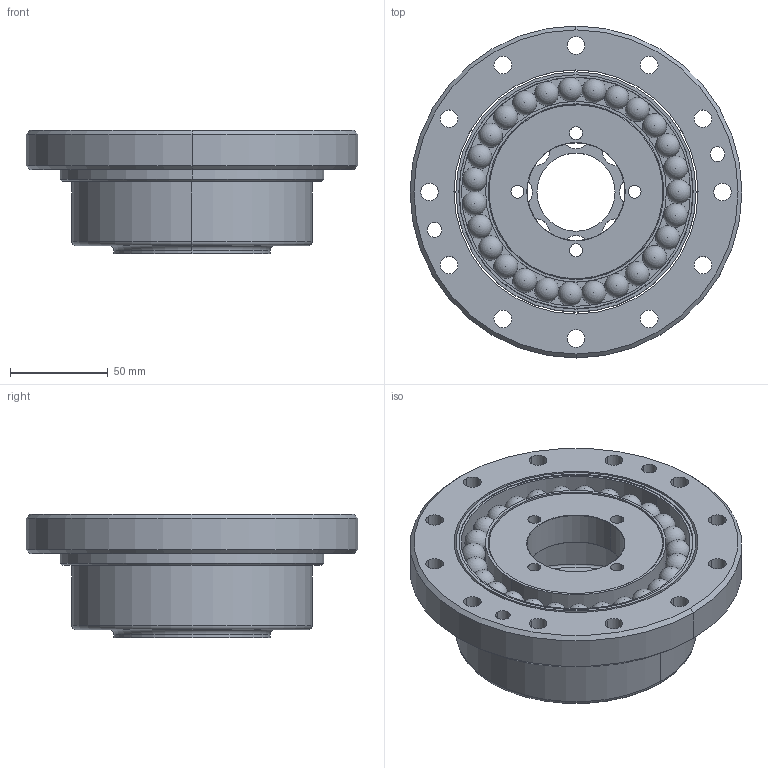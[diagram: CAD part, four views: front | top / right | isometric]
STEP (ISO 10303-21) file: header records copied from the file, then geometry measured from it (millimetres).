
FILE_DESCRIPTION (( 'STEP AP203' ), '1' );
FILE_NAME ('PGK-32-160.STEP', '2023-01-23T10:26:12', ( '' ), ( '' ), 'SwSTEP 2.0', 'SolidWorks 2020', '' );
FILE_SCHEMA (( 'CONFIG_CONTROL_DESIGN' ));
Length unit declared in the file: millimetre
Products named in the file (5): PGK-32-160; PGK24-100-80-04___ _________; PGK24-100-80-03___ _________; PGK24-100-80-02___ _________; PGK24-100-80-01___ _________
Assembly tree (4 placements, depth 2):
  PGK-32-160
    PGK24-100-80-03___ _________
    PGK24-100-80-04___ _________
    PGK24-100-80-01___ _________
    PGK24-100-80-02___ _________
Bounding box: 170 x 170 x 63 mm (x, y, z)
Volume: 371418.8 mm3; surface area: 170076.9 mm2
Topology: 6 solids, 6 shells, 173 faces, 539 edges, 325 vertices
Faces by surface type: cylinder 80, sphere 54, plane 13, cone 10, torus 10, bspline 6
Entity records: 9921 total; most frequent: CARTESIAN_POINT 5120, DIRECTION 1036, ORIENTED_EDGE 808, AXIS2_PLACEMENT_3D 472, EDGE_CURVE 404, CIRCLE 298, VERTEX_POINT 244, EDGE_LOOP 242
